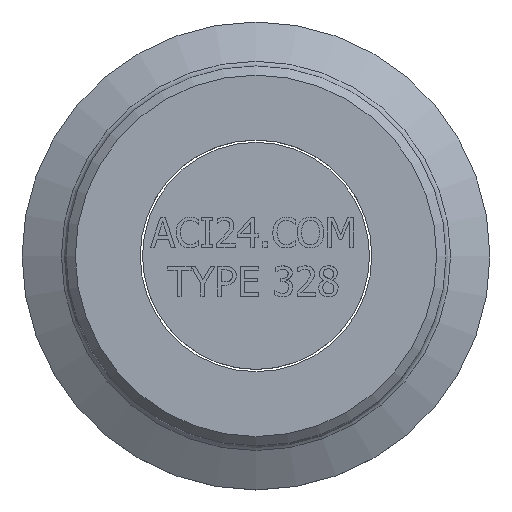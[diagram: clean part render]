
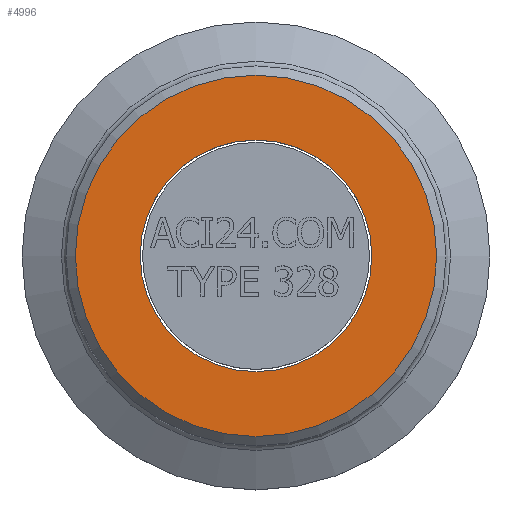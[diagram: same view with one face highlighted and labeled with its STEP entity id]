
A CAD part, top view. The second image highlights one B-rep face of the part: STEP entity #4996.
In plain terms, the highlighted planar face has unit normal (0, 0, 1).
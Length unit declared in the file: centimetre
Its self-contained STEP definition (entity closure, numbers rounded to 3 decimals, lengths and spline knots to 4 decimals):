
#27=CIRCLE('',#5157,1.95);
#29=CIRCLE('',#5161,1.25);
#85=FACE_BOUND('',#992,.T.);
#697=FACE_OUTER_BOUND('',#991,.T.);
#991=EDGE_LOOP('',(#4569));
#992=EDGE_LOOP('',(#4570));
#2430=VERTEX_POINT('',#8913);
#2432=VERTEX_POINT('',#8919);
#3146=EDGE_CURVE('',#2430,#2430,#27,.T.);
#3148=EDGE_CURVE('',#2432,#2432,#29,.T.);
#4569=ORIENTED_EDGE('',*,*,#3146,.F.);
#4570=ORIENTED_EDGE('',*,*,#3148,.F.);
#4732=PLANE('',#5160);
#4996=ADVANCED_FACE('',(#697,#85),#4732,.T.);
#5157=AXIS2_PLACEMENT_3D('',#8914,#5951,#5952);
#5160=AXIS2_PLACEMENT_3D('',#8918,#5957,#5958);
#5161=AXIS2_PLACEMENT_3D('',#8920,#5959,#5960);
#5951=DIRECTION('center_axis',(0.,0.,
-1.));
#5952=DIRECTION('ref_axis',(0.,-1.,0.));
#5957=DIRECTION('center_axis',(0.,0.,
1.));
#5958=DIRECTION('ref_axis',(0.,1.,0.));
#5959=DIRECTION('center_axis',(0.,0.,
1.));
#5960=DIRECTION('ref_axis',(-1.,0.,0.));
#8913=CARTESIAN_POINT('',(0.,1.95,0.5));
#8914=CARTESIAN_POINT('Origin',(0.,0.,
0.5));
#8918=CARTESIAN_POINT('Origin',(0.,1.25,0.5));
#8919=CARTESIAN_POINT('',(0.,1.25,0.5));
#8920=CARTESIAN_POINT('Origin',(0.,0.,
0.5));
